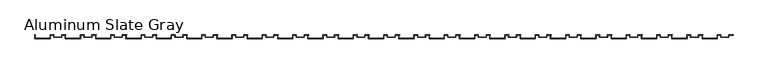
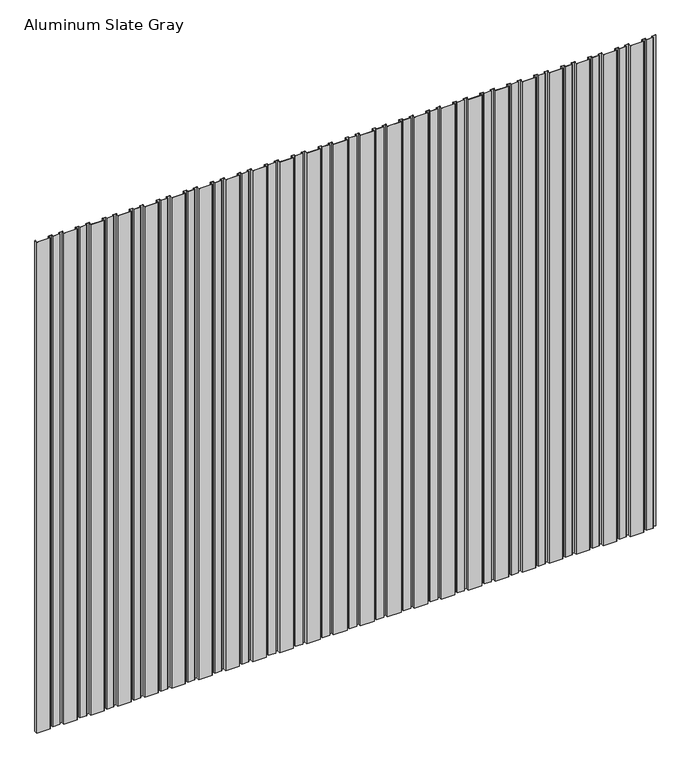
"""IFC4 building model written with IfcOpenShell, lengths in millimetres: proxy geometry, TITANTEK DV 1 VariPanel : Aluminum Slate Gray."""

from ifc_helpers import new_model, si_unit, origin, origin_with_axes, place, context, project, spatial, polyline, outline, extrude, source, transform, mapped, element, save


def aluminum_slate_gray_4889c0f9(model_context):
    return source(origin(), model_context, "Body", "SweptSolid", [
        extrude(outline(polyline([(4758.928125, -0.9921875), (4758.928125, -15.875), (4703.365625, -15.875), (4703.365625, -0.9921875), (4679.95, -0.9921875), (4679.95, -25.4), (4575.175, -25.4), (4575.175, 0.0), (4576.1671875, 0.0), (4576.1671875, -24.4078125), (4678.9578125, -24.4078125), (4678.9578125, 0.0), (4704.3578125, 0.0), (4704.3578125, -14.8828125), (4757.9359375, -14.8828125), (4757.9359375, 0.0), (4787.9, 0.0), (4787.9, -0.9921875), (4758.928125, -0.9921875)])), origin_with_axes(), (0.0, 0.0, 1.0), 4000.0),
        extrude(outline(polyline([(4550.965625, -0.9921875), (4550.965625, -15.875), (4495.403125, -15.875), (4495.403125, -0.9921875), (4471.9875, -0.9921875), (4471.9875, -25.4), (4367.2125, -25.4), (4367.2125, 0.0), (4368.2046875, 0.0), (4368.2046875, -24.4078125), (4470.9953125, -24.4078125), (4470.9953125, 0.0), (4496.3953125, 0.0), (4496.3953125, -14.8828125), (4549.9734375, -14.8828125), (4549.9734375, 0.0), (4579.9375, 0.0), (4579.9375, -0.9921875), (4550.965625, -0.9921875)])), origin_with_axes(), (0.0, 0.0, 1.0), 4000.0),
        extrude(outline(polyline([(4343.003125, -0.9921875), (4343.003125, -15.875), (4287.440625, -15.875), (4287.440625, -0.9921875), (4264.025, -0.9921875), (4264.025, -25.4), (4159.25, -25.4), (4159.25, 0.0), (4160.2421875, 0.0), (4160.2421875, -24.4078125), (4263.0328125, -24.4078125), (4263.0328125, 0.0), (4288.4328125, 0.0), (4288.4328125, -14.8828125), (4342.0109375, -14.8828125), (4342.0109375, 0.0), (4371.975, 0.0), (4371.975, -0.9921875), (4343.003125, -0.9921875)])), origin_with_axes(), (0.0, 0.0, 1.0), 4000.0),
        extrude(outline(polyline([(4135.040625, -0.9921875), (4135.040625, -15.875), (4079.478125, -15.875), (4079.478125, -0.9921875), (4056.0625, -0.9921875), (4056.0625, -25.4), (3951.2875, -25.4), (3951.2875, 0.0), (3952.2796875, 0.0), (3952.2796875, -24.4078125), (4055.0703125, -24.4078125), (4055.0703125, 0.0), (4080.4703125, 0.0), (4080.4703125, -14.8828125), (4134.0484375, -14.8828125), (4134.0484375, 0.0), (4164.0125, 0.0), (4164.0125, -0.9921875), (4135.040625, -0.9921875)])), origin_with_axes(), (0.0, 0.0, 1.0), 4000.0),
        extrude(outline(polyline([(3927.078125, -0.9921875), (3927.078125, -15.875), (3871.515625, -15.875), (3871.515625, -0.9921875), (3848.1, -0.9921875), (3848.1, -25.4), (3743.325, -25.4), (3743.325, 0.0), (3744.3171875, 0.0), (3744.3171875, -24.4078125), (3847.1078125, -24.4078125), (3847.1078125, 0.0), (3872.5078125, 0.0), (3872.5078125, -14.8828125), (3926.0859375, -14.8828125), (3926.0859375, 0.0), (3956.05, 0.0), (3956.05, -0.9921875), (3927.078125, -0.9921875)])), origin_with_axes(), (0.0, 0.0, 1.0), 4000.0),
        extrude(outline(polyline([(3719.115625, -0.9921875), (3719.115625, -15.875), (3663.553125, -15.875), (3663.553125, -0.9921875), (3640.1375, -0.9921875), (3640.1375, -25.4), (3535.3625, -25.4), (3535.3625, 0.0), (3536.3546875, 0.0), (3536.3546875, -24.4078125), (3639.1453125, -24.4078125), (3639.1453125, 0.0), (3664.5453125, 0.0), (3664.5453125, -14.8828125), (3718.1234375, -14.8828125), (3718.1234375, 0.0), (3748.0875, 0.0), (3748.0875, -0.9921875), (3719.115625, -0.9921875)])), origin_with_axes(), (0.0, 0.0, 1.0), 4000.0),
        extrude(outline(polyline([(3511.153125, -0.9921875), (3511.153125, -15.875), (3455.590625, -15.875), (3455.590625, -0.9921875), (3432.175, -0.9921875), (3432.175, -25.4), (3327.4, -25.4), (3327.4, 0.0), (3328.3921875, 0.0), (3328.3921875, -24.4078125), (3431.1828125, -24.4078125), (3431.1828125, 0.0), (3456.5828125, 0.0), (3456.5828125, -14.8828125), (3510.1609375, -14.8828125), (3510.1609375, 0.0), (3540.125, 0.0), (3540.125, -0.9921875), (3511.153125, -0.9921875)])), origin_with_axes(), (0.0, 0.0, 1.0), 4000.0),
        extrude(outline(polyline([(3303.190625, -0.9921875), (3303.190625, -15.875), (3247.628125, -15.875), (3247.628125, -0.9921875), (3224.2125, -0.9921875), (3224.2125, -25.4), (3119.4375, -25.4), (3119.4375, 0.0), (3120.4296875, 0.0), (3120.4296875, -24.4078125), (3223.2203125, -24.4078125), (3223.2203125, 0.0), (3248.6203125, 0.0), (3248.6203125, -14.8828125), (3302.1984375, -14.8828125), (3302.1984375, 0.0), (3332.1625, 0.0), (3332.1625, -0.9921875), (3303.190625, -0.9921875)])), origin_with_axes(), (0.0, 0.0, 1.0), 4000.0),
        extrude(outline(polyline([(3095.228125, -0.9921875), (3095.228125, -15.875), (3039.665625, -15.875), (3039.665625, -0.9921875), (3016.25, -0.9921875), (3016.25, -25.4), (2911.475, -25.4), (2911.475, 0.0), (2912.4671875, 0.0), (2912.4671875, -24.4078125), (3015.2578125, -24.4078125), (3015.2578125, 0.0), (3040.6578125, 0.0), (3040.6578125, -14.8828125), (3094.2359375, -14.8828125), (3094.2359375, 0.0), (3124.2, 0.0), (3124.2, -0.9921875), (3095.228125, -0.9921875)])), origin_with_axes(), (0.0, 0.0, 1.0), 4000.0),
        extrude(outline(polyline([(2887.265625, -0.9921875), (2887.265625, -15.875), (2831.703125, -15.875), (2831.703125, -0.9921875), (2808.2875, -0.9921875), (2808.2875, -25.4), (2703.5125, -25.4), (2703.5125, 0.0), (2704.5046875, 0.0), (2704.5046875, -24.4078125), (2807.2953125, -24.4078125), (2807.2953125, 0.0), (2832.6953125, 0.0), (2832.6953125, -14.8828125), (2886.2734375, -14.8828125), (2886.2734375, 0.0), (2916.2375, 0.0), (2916.2375, -0.9921875), (2887.265625, -0.9921875)])), origin_with_axes(), (0.0, 0.0, 1.0), 4000.0),
        extrude(outline(polyline([(2679.303125, -0.9921875), (2679.303125, -15.875), (2623.740625, -15.875), (2623.740625, -0.9921875), (2600.325, -0.9921875), (2600.325, -25.4), (2495.55, -25.4), (2495.55, 0.0), (2496.5421875, 0.0), (2496.5421875, -24.4078125), (2599.3328125, -24.4078125), (2599.3328125, 0.0), (2624.7328125, 0.0), (2624.7328125, -14.8828125), (2678.3109375, -14.8828125), (2678.3109375, 0.0), (2708.275, 0.0), (2708.275, -0.9921875), (2679.303125, -0.9921875)])), origin_with_axes(), (0.0, 0.0, 1.0), 4000.0),
        extrude(outline(polyline([(2471.340625, -0.9921875), (2471.340625, -15.875), (2415.778125, -15.875), (2415.778125, -0.9921875), (2392.3625, -0.9921875), (2392.3625, -25.4), (2287.5875, -25.4), (2287.5875, 0.0), (2288.5796875, 0.0), (2288.5796875, -24.4078125), (2391.3703125, -24.4078125), (2391.3703125, 0.0), (2416.7703125, 0.0), (2416.7703125, -14.8828125), (2470.3484375, -14.8828125), (2470.3484375, 0.0), (2500.3125, 0.0), (2500.3125, -0.9921875), (2471.340625, -0.9921875)])), origin_with_axes(), (0.0, 0.0, 1.0), 4000.0),
        extrude(outline(polyline([(2263.378125, -0.9921875), (2263.378125, -15.875), (2207.815625, -15.875), (2207.815625, -0.9921875), (2184.4, -0.9921875), (2184.4, -25.4), (2079.625, -25.4), (2079.625, 0.0), (2080.6171875, 0.0), (2080.6171875, -24.4078125), (2183.4078125, -24.4078125), (2183.4078125, 0.0), (2208.8078125, 0.0), (2208.8078125, -14.8828125), (2262.3859375, -14.8828125), (2262.3859375, 0.0), (2292.35, 0.0), (2292.35, -0.9921875), (2263.378125, -0.9921875)])), origin_with_axes(), (0.0, 0.0, 1.0), 4000.0),
        extrude(outline(polyline([(2055.415625, -0.9921875), (2055.415625, -15.875), (1999.853125, -15.875), (1999.853125, -0.9921875), (1976.4375, -0.9921875), (1976.4375, -25.4), (1871.6625, -25.4), (1871.6625, 0.0), (1872.6546875, 0.0), (1872.6546875, -24.4078125), (1975.4453125, -24.4078125), (1975.4453125, 0.0), (2000.8453125, 0.0), (2000.8453125, -14.8828125), (2054.4234375, -14.8828125), (2054.4234375, 0.0), (2084.3875, 0.0), (2084.3875, -0.9921875), (2055.415625, -0.9921875)])), origin_with_axes(), (0.0, 0.0, 1.0), 4000.0),
        extrude(outline(polyline([(1847.453125, -0.9921875), (1847.453125, -15.875), (1791.890625, -15.875), (1791.890625, -0.9921875), (1768.475, -0.9921875), (1768.475, -25.4), (1663.7, -25.4), (1663.7, 0.0), (1664.6921875, 0.0), (1664.6921875, -24.4078125), (1767.4828125, -24.4078125), (1767.4828125, 0.0), (1792.8828125, 0.0), (1792.8828125, -14.8828125), (1846.4609375, -14.8828125), (1846.4609375, 0.0), (1876.425, 0.0), (1876.425, -0.9921875), (1847.453125, -0.9921875)])), origin_with_axes(), (0.0, 0.0, 1.0), 4000.0),
        extrude(outline(polyline([(1639.490625, -0.9921875), (1639.490625, -15.875), (1583.928125, -15.875), (1583.928125, -0.9921875), (1560.5125, -0.9921875), (1560.5125, -25.4), (1455.7375, -25.4), (1455.7375, 0.0), (1456.7296875, 0.0), (1456.7296875, -24.4078125), (1559.5203125, -24.4078125), (1559.5203125, 0.0), (1584.9203125, 0.0), (1584.9203125, -14.8828125), (1638.4984375, -14.8828125), (1638.4984375, 0.0), (1668.4625, 0.0), (1668.4625, -0.9921875), (1639.490625, -0.9921875)])), origin_with_axes(), (0.0, 0.0, 1.0), 4000.0),
        extrude(outline(polyline([(1431.528125, -0.9921875), (1431.528125, -15.875), (1375.965625, -15.875), (1375.965625, -0.9921875), (1352.55, -0.9921875), (1352.55, -25.4), (1247.775, -25.4), (1247.775, 0.0), (1248.7671875, 0.0), (1248.7671875, -24.4078125), (1351.5578125, -24.4078125), (1351.5578125, 0.0), (1376.9578125, 0.0), (1376.9578125, -14.8828125), (1430.5359375, -14.8828125), (1430.5359375, 0.0), (1460.5, 0.0), (1460.5, -0.9921875), (1431.528125, -0.9921875)])), origin_with_axes(), (0.0, 0.0, 1.0), 4000.0),
        extrude(outline(polyline([(1223.565625, -0.9921875), (1223.565625, -15.875), (1168.003125, -15.875), (1168.003125, -0.9921875), (1144.5875, -0.9921875), (1144.5875, -25.4), (1039.8125, -25.4), (1039.8125, 0.0), (1040.8046875, 0.0), (1040.8046875, -24.4078125), (1143.5953125, -24.4078125), (1143.5953125, 0.0), (1168.9953125, 0.0), (1168.9953125, -14.8828125), (1222.5734375, -14.8828125), (1222.5734375, 0.0), (1252.5375, 0.0), (1252.5375, -0.9921875), (1223.565625, -0.9921875)])), origin_with_axes(), (0.0, 0.0, 1.0), 4000.0),
        extrude(outline(polyline([(1015.603125, -0.9921875), (1015.603125, -15.875), (960.040625, -15.875), (960.040625, -0.9921875), (936.625, -0.9921875), (936.625, -25.4), (831.85, -25.4), (831.85, 0.0), (832.8421875, 0.0), (832.8421875, -24.4078125), (935.6328125, -24.4078125), (935.6328125, 0.0), (961.0328125, 0.0), (961.0328125, -14.8828125), (1014.6109375, -14.8828125), (1014.6109375, 0.0), (1044.575, 0.0), (1044.575, -0.9921875), (1015.603125, -0.9921875)])), origin_with_axes(), (0.0, 0.0, 1.0), 4000.0),
        extrude(outline(polyline([(807.640625, -0.9921875), (807.640625, -15.875), (752.078125, -15.875), (752.078125, -0.9921875), (728.6625, -0.9921875), (728.6625, -25.4), (623.8875, -25.4), (623.8875, 0.0), (624.8796875, 0.0), (624.8796875, -24.4078125), (727.6703125, -24.4078125), (727.6703125, 0.0), (753.0703125, 0.0), (753.0703125, -14.8828125), (806.6484375, -14.8828125), (806.6484375, 0.0), (836.6125, 0.0), (836.6125, -0.9921875), (807.640625, -0.9921875)])), origin_with_axes(), (0.0, 0.0, 1.0), 4000.0),
        extrude(outline(polyline([(599.678125, -0.9921875), (599.678125, -15.875), (544.115625, -15.875), (544.115625, -0.9921875), (520.7, -0.9921875), (520.7, -25.4), (415.925, -25.4), (415.925, 0.0), (416.9171875, 0.0), (416.9171875, -24.4078125), (519.7078125, -24.4078125), (519.7078125, 0.0), (545.1078125, 0.0), (545.1078125, -14.8828125), (598.6859375, -14.8828125), (598.6859375, 0.0), (628.65, 0.0), (628.65, -0.9921875), (599.678125, -0.9921875)])), origin_with_axes(), (0.0, 0.0, 1.0), 4000.0),
        extrude(outline(polyline([(391.715625, -0.9921875), (391.715625, -15.875), (336.153125, -15.875), (336.153125, -0.9921875), (312.7375, -0.9921875), (312.7375, -25.4), (207.9625, -25.4), (207.9625, 0.0), (208.9546875, 0.0), (208.9546875, -24.4078125), (311.7453125, -24.4078125), (311.7453125, 0.0), (337.1453125, 0.0), (337.1453125, -14.8828125), (390.7234375, -14.8828125), (390.7234375, 0.0), (420.6875, 0.0), (420.6875, -0.9921875), (391.715625, -0.9921875)])), origin_with_axes(), (0.0, 0.0, 1.0), 4000.0),
        extrude(outline(polyline([(183.753125, -0.9921875), (183.753125, -15.875), (128.190625, -15.875), (128.190625, -0.9921875), (104.775, -0.9921875), (104.775, -25.4), (0.0, -25.4), (0.0, 0.0), (0.9921875, 0.0), (0.9921875, -24.4078125), (103.7828125, -24.4078125), (103.7828125, 0.0), (129.1828125, 0.0), (129.1828125, -14.8828125), (182.7609375, -14.8828125), (182.7609375, 0.0), (212.725, 0.0), (212.725, -0.9921875), (183.753125, -0.9921875)])), origin_with_axes(), (0.0, 0.0, 1.0), 4000.0),
    ])


if __name__ == "__main__":
    model = new_model("IFC4")
    model_context = context("Model", 3, world=origin())
    ifc_project = project(units=[si_unit("LENGTHUNIT", "METRE", prefix="MILLI")], contexts=[model_context])
    site = spatial("IfcSite", under=ifc_project)
    building = spatial("IfcBuilding", under=site)
    placement = place(None, origin())
    aluminum_slate_gray_shape = aluminum_slate_gray_4889c0f9(model_context)
    element("IfcBuildingElementProxy", 1, Name="TITANTEK DV 1 VariPanel : Aluminum Slate Gray", ObjectType="TITANTEK DV 1 VariPanel : Aluminum Slate Gray", at=placement, inside=building, context=model_context, shape_type="MappedRepresentation", body=[
        mapped(aluminum_slate_gray_shape, transform((0.0, 0.0, 0.0), x_axis=(1.0, 0.0, 0.0), y_axis=(0.0, 1.0, 0.0), z_axis=(0.0, 0.0, 1.0))),
    ])
    save(model, "model.ifc")
